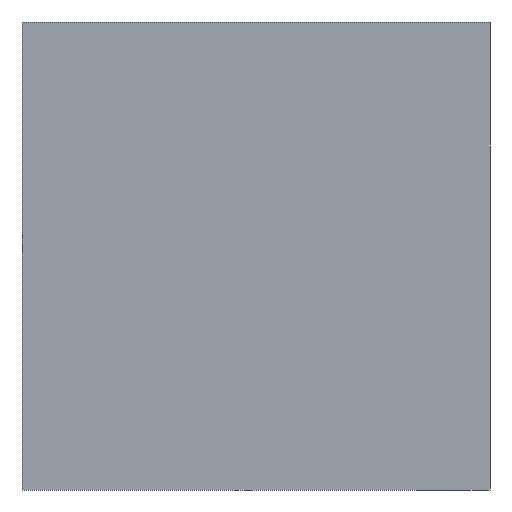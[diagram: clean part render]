
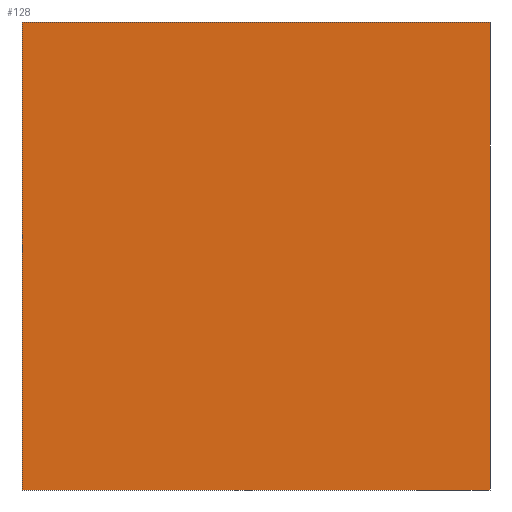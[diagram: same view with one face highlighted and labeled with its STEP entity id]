
A CAD part, front view. The second image highlights one B-rep face of the part: STEP entity #128.
In plain terms, the highlighted planar face has unit normal (0, -1, 0).
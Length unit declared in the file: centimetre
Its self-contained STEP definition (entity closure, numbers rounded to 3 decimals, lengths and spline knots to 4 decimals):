
#23 = CARTESIAN_POINT ( 'NONE',  ( 1000., 0., 0. ) ) ;
#32 = CARTESIAN_POINT ( 'NONE',  ( 0., 0., 0. ) ) ;
#44 = DIRECTION ( 'NONE',  ( 0., 0., -1. ) ) ;
#49 = CARTESIAN_POINT ( 'NONE',  ( 0., 0., 1000. ) ) ;
#80 = CARTESIAN_POINT ( 'NONE',  ( 1000., 0., 1000. ) ) ;
#87 = FACE_OUTER_BOUND ( 'NONE', #459, .T. ) ;
#101 = CARTESIAN_POINT ( 'NONE',  ( 0., 0., 0. ) ) ;
#104 = VECTOR ( 'NONE', #211, 100. ) ;
#128 = ADVANCED_FACE ( 'NONE', ( #87 ), #491, .F. ) ;
#132 = ORIENTED_EDGE ( 'NONE', *, *, #519, .T. ) ;
#134 = EDGE_CURVE ( 'NONE', #300, #470, #136, .T. ) ;
#136 = LINE ( 'NONE', #49, #104 ) ;
#138 = DIRECTION ( 'NONE',  ( 1., 0., 0. ) ) ;
#151 = ORIENTED_EDGE ( 'NONE', *, *, #134, .F. ) ;
#158 = DIRECTION ( 'NONE',  ( 0., 0., -1. ) ) ;
#163 = VECTOR ( 'NONE', #44, 100. ) ;
#166 = LINE ( 'NONE', #216, #163 ) ;
#177 = VERTEX_POINT ( 'NONE', #23 ) ;
#180 = EDGE_CURVE ( 'NONE', #470, #177, #448, .T. ) ;
#182 = VECTOR ( 'NONE', #138, 100. ) ;
#189 = VECTOR ( 'NONE', #158, 100. ) ;
#211 = DIRECTION ( 'NONE',  ( 1., 0., 0. ) ) ;
#216 = CARTESIAN_POINT ( 'NONE',  ( 0., 0., 1000. ) ) ;
#219 = LINE ( 'NONE', #101, #182 ) ;
#248 = CARTESIAN_POINT ( 'NONE',  ( 0., 0., 1000. ) ) ;
#258 = CARTESIAN_POINT ( 'NONE',  ( 0., 0., 1000. ) ) ;
#267 = AXIS2_PLACEMENT_3D ( 'NONE', #258, #529, #416 ) ;
#300 = VERTEX_POINT ( 'NONE', #248 ) ;
#303 = EDGE_CURVE ( 'NONE', #300, #402, #166, .T. ) ;
#318 = ORIENTED_EDGE ( 'NONE', *, *, #180, .F. ) ;
#343 = CARTESIAN_POINT ( 'NONE',  ( 1000., 0., 1000. ) ) ;
#354 = ORIENTED_EDGE ( 'NONE', *, *, #303, .T. ) ;
#402 = VERTEX_POINT ( 'NONE', #32 ) ;
#416 = DIRECTION ( 'NONE',  ( 0., 0., 1. ) ) ;
#448 = LINE ( 'NONE', #80, #189 ) ;
#459 = EDGE_LOOP ( 'NONE', ( #132, #318, #151, #354 ) ) ;
#470 = VERTEX_POINT ( 'NONE', #343 ) ;
#491 = PLANE ( 'NONE',  #267 ) ;
#519 = EDGE_CURVE ( 'NONE', #402, #177, #219, .T. ) ;
#529 = DIRECTION ( 'NONE',  ( 0., 1., 0. ) ) ;
